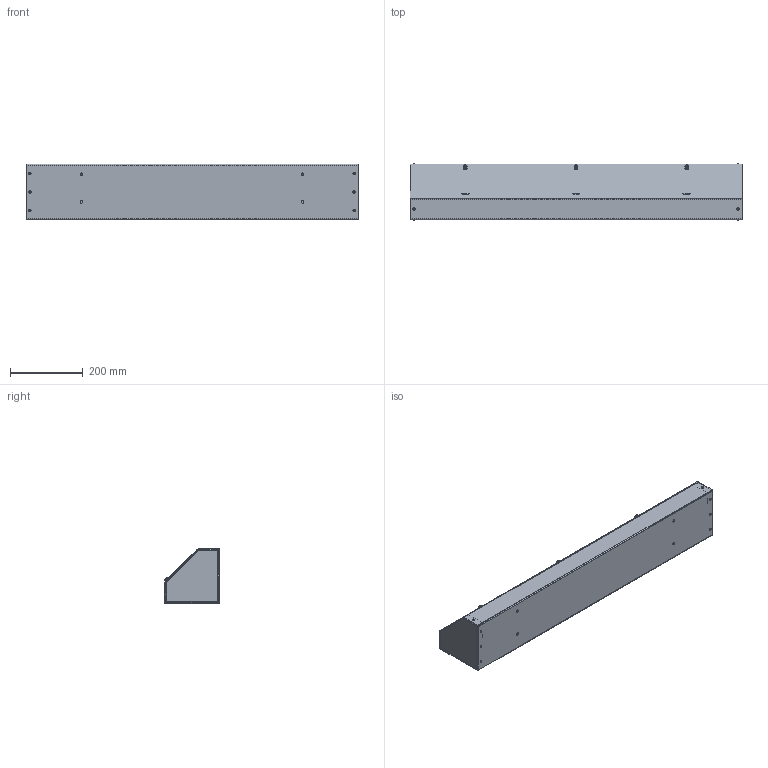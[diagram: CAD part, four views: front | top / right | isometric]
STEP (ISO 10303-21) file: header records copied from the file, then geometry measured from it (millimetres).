
FILE_DESCRIPTION (( 'STEP AP203' ), '1' );
FILE_NAME ('at6636.STEP', '2017-10-03T16:55:50', ( '' ), ( '' ), 'SwSTEP 2.0', 'SolidWorks 2014', '' );
FILE_SCHEMA (( 'CONFIG_CONTROL_DESIGN' ));
Length unit declared in the file: inch
Products named in the file (8): at6636; 89159104; 89159121; 16111002_INSTALLED .144 THICKNESS; 89159148; 89159127; 87791796_PANHTS 0.19-32-type I-F-0.563-S; 87780048
Assembly tree (25 placements, depth 3):
  at6636
    89159148
      89159104
      89159121  x2
      16111002_INSTALLED .144 THICKNESS  x16
    89159127
    87791796_PANHTS 0.19-32-type I-F-0.563-S  x3
    87780048
Bounding box: 914.4 x 154.23 x 154.23 mm (x, y, z)
Volume: 814604.8 mm3; surface area: 1185054.9 mm2
Topology: 24 solids, 24 shells, 1168 faces, 2939 edges, 1835 vertices
Faces by surface type: plane 650, cylinder 312, cone 102, bspline 80, torus 24
Entity records: 17851 total; most frequent: CARTESIAN_POINT 3563, ORIENTED_EDGE 2724, DIRECTION 2711, EDGE_CURVE 1362, AXIS2_PLACEMENT_3D 936, VERTEX_POINT 868, VECTOR 839, LINE 839
